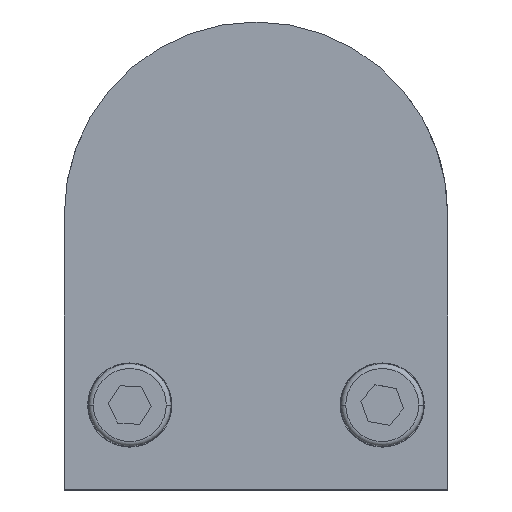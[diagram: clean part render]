
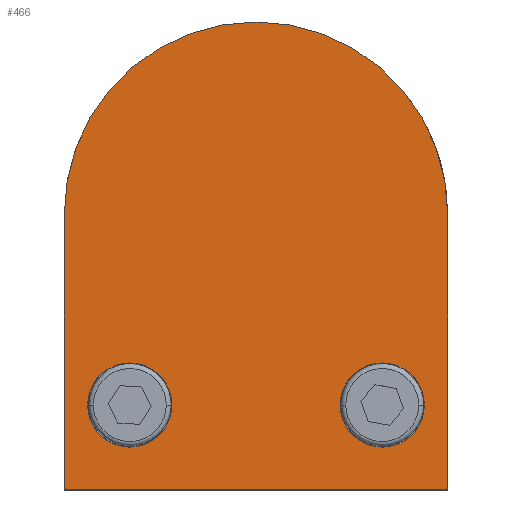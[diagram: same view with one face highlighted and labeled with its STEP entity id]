
A CAD part, top view. The second image highlights one B-rep face of the part: STEP entity #466.
In plain terms, the highlighted planar face has unit normal (0, 0, 1).
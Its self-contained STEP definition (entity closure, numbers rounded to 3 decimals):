
#12 = CARTESIAN_POINT ( 'NONE',  ( 0., 59.5, 14.25 ) ) ;
#14 = AXIS2_PLACEMENT_3D ( 'NONE', #1131, #2122, #2143 ) ;
#44 = VERTEX_POINT ( 'NONE', #1698 ) ;
#225 = VERTEX_POINT ( 'NONE', #2705 ) ;
#269 = AXIS2_PLACEMENT_3D ( 'NONE', #1477, #2757, #2477 ) ;
#283 = CIRCLE ( 'NONE', #555, 4.5 ) ;
#291 = FACE_OUTER_BOUND ( 'NONE', #3271, .T. ) ;
#303 = VERTEX_POINT ( 'NONE', #732 ) ;
#305 = CARTESIAN_POINT ( 'NONE',  ( -20.5, 0., 14.25 ) ) ;
#334 = ORIENTED_EDGE ( 'NONE', *, *, #1238, .F. ) ;
#398 = VERTEX_POINT ( 'NONE', #1988 ) ;
#399 = ORIENTED_EDGE ( 'NONE', *, *, #2790, .F. ) ;
#421 = ORIENTED_EDGE ( 'NONE', *, *, #2472, .F. ) ;
#449 = CARTESIAN_POINT ( 'NONE',  ( 18., 39.038, 14.25 ) ) ;
#456 = CIRCLE ( 'NONE', #2604, 4.5 ) ;
#466 = ADVANCED_FACE ( 'NONE', ( #529, #2062, #291 ), #2045, .T. ) ;
#529 = FACE_BOUND ( 'NONE', #631, .T. ) ;
#555 = AXIS2_PLACEMENT_3D ( 'NONE', #3299, #2053, #3070 ) ;
#587 = DIRECTION ( 'NONE',  ( 1., 0., 0. ) ) ;
#631 = EDGE_LOOP ( 'NONE', ( #2901, #334 ) ) ;
#732 = CARTESIAN_POINT ( 'NONE',  ( 20.5, 59.5, 14.25 ) ) ;
#780 = VECTOR ( 'NONE', #1686, 1000. ) ;
#973 = CARTESIAN_POINT ( 'NONE',  ( -20.5, 59.5, 14.25 ) ) ;
#1050 = LINE ( 'NONE', #305, #3013 ) ;
#1065 = EDGE_CURVE ( 'NONE', #1384, #398, #456, .T. ) ;
#1131 = CARTESIAN_POINT ( 'NONE',  ( -13.5, 39.038, 14.25 ) ) ;
#1238 = EDGE_CURVE ( 'NONE', #398, #1384, #2510, .T. ) ;
#1270 = CARTESIAN_POINT ( 'NONE',  ( 9., 39.038, 14.25 ) ) ;
#1384 = VERTEX_POINT ( 'NONE', #2980 ) ;
#1475 = EDGE_CURVE ( 'NONE', #2965, #2679, #2897, .T. ) ;
#1477 = CARTESIAN_POINT ( 'NONE',  ( 13.5, 39.038, 14.25 ) ) ;
#1478 = LINE ( 'NONE', #2923, #780 ) ;
#1485 = DIRECTION ( 'NONE',  ( 0., 0., 1. ) ) ;
#1499 = DIRECTION ( 'NONE',  ( 1., 0., 0. ) ) ;
#1582 = CARTESIAN_POINT ( 'NONE',  ( 0., 59.5, 14.25 ) ) ;
#1686 = DIRECTION ( 'NONE',  ( 0., 1., 0. ) ) ;
#1698 = CARTESIAN_POINT ( 'NONE',  ( 20.5, 30., 14.25 ) ) ;
#1933 = EDGE_CURVE ( 'NONE', #2664, #225, #1050, .T. ) ;
#1986 = CARTESIAN_POINT ( 'NONE',  ( -13.5, 39.038, 14.25 ) ) ;
#1988 = CARTESIAN_POINT ( 'NONE',  ( -18., 39.038, 14.25 ) ) ;
#2025 = CIRCLE ( 'NONE', #2719, 20.5 ) ;
#2045 = PLANE ( 'NONE',  #2885 ) ;
#2053 = DIRECTION ( 'NONE',  ( 0., 0., 1. ) ) ;
#2054 = ORIENTED_EDGE ( 'NONE', *, *, #3245, .T. ) ;
#2062 = FACE_BOUND ( 'NONE', #2878, .T. ) ;
#2098 = DIRECTION ( 'NONE',  ( 0., -1., 0. ) ) ;
#2099 = DIRECTION ( 'NONE',  ( 0., 0., 1. ) ) ;
#2122 = DIRECTION ( 'NONE',  ( 0., 0., 1. ) ) ;
#2143 = DIRECTION ( 'NONE',  ( 1., 0., 0. ) ) ;
#2160 = ORIENTED_EDGE ( 'NONE', *, *, #3009, .T. ) ;
#2391 = CARTESIAN_POINT ( 'NONE',  ( 0., 30., 14.25 ) ) ;
#2472 = EDGE_CURVE ( 'NONE', #44, #225, #3113, .T. ) ;
#2477 = DIRECTION ( 'NONE',  ( 1., 0., 0. ) ) ;
#2510 = CIRCLE ( 'NONE', #14, 4.5 ) ;
#2530 = ORIENTED_EDGE ( 'NONE', *, *, #1475, .F. ) ;
#2604 = AXIS2_PLACEMENT_3D ( 'NONE', #1986, #1485, #1499 ) ;
#2664 = VERTEX_POINT ( 'NONE', #973 ) ;
#2679 = VERTEX_POINT ( 'NONE', #1270 ) ;
#2705 = CARTESIAN_POINT ( 'NONE',  ( -20.5, 30., 14.25 ) ) ;
#2719 = AXIS2_PLACEMENT_3D ( 'NONE', #12, #2850, #587 ) ;
#2757 = DIRECTION ( 'NONE',  ( 0., 0., 1. ) ) ;
#2790 = EDGE_CURVE ( 'NONE', #2679, #2965, #283, .T. ) ;
#2831 = VECTOR ( 'NONE', #3167, 1000. ) ;
#2834 = DIRECTION ( 'NONE',  ( 1., 0., 0. ) ) ;
#2850 = DIRECTION ( 'NONE',  ( 0., 0., 1. ) ) ;
#2878 = EDGE_LOOP ( 'NONE', ( #2530, #399 ) ) ;
#2885 = AXIS2_PLACEMENT_3D ( 'NONE', #1582, #2099, #2834 ) ;
#2897 = CIRCLE ( 'NONE', #269, 4.5 ) ;
#2901 = ORIENTED_EDGE ( 'NONE', *, *, #1065, .F. ) ;
#2923 = CARTESIAN_POINT ( 'NONE',  ( 20.5, 0., 14.25 ) ) ;
#2942 = ORIENTED_EDGE ( 'NONE', *, *, #1933, .T. ) ;
#2965 = VERTEX_POINT ( 'NONE', #449 ) ;
#2980 = CARTESIAN_POINT ( 'NONE',  ( -9., 39.038, 14.25 ) ) ;
#3009 = EDGE_CURVE ( 'NONE', #44, #303, #1478, .T. ) ;
#3013 = VECTOR ( 'NONE', #2098, 1000. ) ;
#3070 = DIRECTION ( 'NONE',  ( 1., 0., 0. ) ) ;
#3113 = LINE ( 'NONE', #2391, #2831 ) ;
#3167 = DIRECTION ( 'NONE',  ( -1., 0., 0. ) ) ;
#3245 = EDGE_CURVE ( 'NONE', #303, #2664, #2025, .T. ) ;
#3271 = EDGE_LOOP ( 'NONE', ( #421, #2160, #2054, #2942 ) ) ;
#3299 = CARTESIAN_POINT ( 'NONE',  ( 13.5, 39.038, 14.25 ) ) ;
